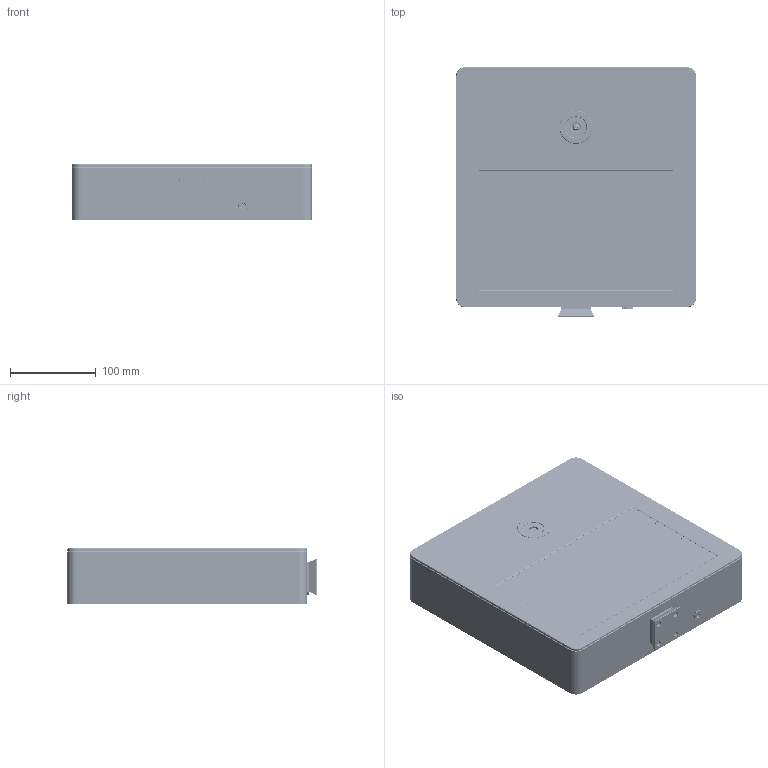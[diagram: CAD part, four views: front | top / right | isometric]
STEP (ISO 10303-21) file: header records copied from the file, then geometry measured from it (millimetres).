
FILE_DESCRIPTION (( 'STEP AP214' ), '1' );
FILE_NAME ('booth-100-000_picam-10inch.STEP', '2024-09-13T18:02:11', ( '' ), ( '' ), 'SwSTEP 2.0', 'SolidWorks 2024', '' );
FILE_SCHEMA (( 'AUTOMOTIVE_DESIGN' ));
Length unit declared in the file: millimetre
Products named in the file (247): SWITCH for REF; EN ISO 4762 M3 x 10 - 10N_EN ISO 4762 M3 x 10 - 10N; RESC1005X40N-103; MECHANICAL PIN; led-ring-5v-rgb-27-38mm; J3_USER_LIBRARY-SM02B-BHSS-1-TB; DGND4; MECHANICAL PIN-59; SOT95P280X145-5N; 14; 1-23; CAPC1005X55N; P4-79; 9; OUTPUT; booth-100-000_004; 2-25; EN; VIN; 2-47; 1-19; ATMEL_ATSHA204A_8UDFN; 1-10; P2-75; 2-39; NC1-65; Camera_module_3_std_model_simple; 2-29; CAPC1005X55N-92; SOLDERMASK_TOP; 1-13; GND; 1-4; 2-38; CAPC1005X55N-88; G2-51; CAPC1005X55N-90; Pins; 5; SD CARD for REF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
Assembly tree (268 placements, depth 7):
  booth-100-000_picam-10inch
    booth-101-000_picam-10inch
      booth-100-000_003_picam-10inch
      screen_ws-10.1dp-caplcd
        10_1DP-CAPLCD
          8-101INCH-HDMI-PCBA-20220613_ASM
            101INCH-800H_1280V-0428_ASM
              101INCH-JYM1015853281BB
              101INCH-800X1280-TP
            093-104INCH_HDMI-PCBA-0609
            KEY-2X4_5X3_5-618D5DA4
            J3_USER_LIBRARY-SM02B-BHSS-1-TB
            101INCH-LCD-PCBA-FPC
            EVA
        booth-100-000_011
        EN ISO 4762 M3 x 10 - 10N_EN ISO 4762 M3 x 10 - 10N  x4
        EN ISO 4762 M3 x 6 - 6N_EN ISO 4762 M3 x 6 - 6N  x4
      booth-100-110
        booth-100-110_001
        DIN 912 M2 x 6 --- 6N_DIN 912 M2 x 6 --- 6N  x4
        Camera_module_3_std_model_simple
          Pins
            _PWDN
            1
            1-0
            1-1
            1-2
            1-3
            1-4
            1-5
            1-6
            1-7
            1-8
            1-9
            1-10
            1-11
            1-12
            1-13
            1-14
            1-15
            1-16
            1-17
            1-18
            1-19
            1-20
            1-21
            1-22
            1-23
            10
            11
            12
            13
            14
            15
            2
            2-24
            2-25
            2-26
            2-27
            2-28
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Bounding box: 280 x 291 x 66.15 mm (x, y, z)
Volume: 875619.7 mm3; surface area: 730996.2 mm2
Topology: 680 solids, 784 shells, 29767 faces, 79659 edges, 51867 vertices
Faces by surface type: plane 20004, cylinder 8055, cone 830, bspline 325, torus 282, sphere 271
Entity records: 923160 total; most frequent: CARTESIAN_POINT 189051, ORIENTED_EDGE 152726, DIRECTION 145587, EDGE_CURVE 76365, VECTOR 56485, LINE 56485, VERTEX_POINT 49920, AXIS2_PLACEMENT_3D 44551
